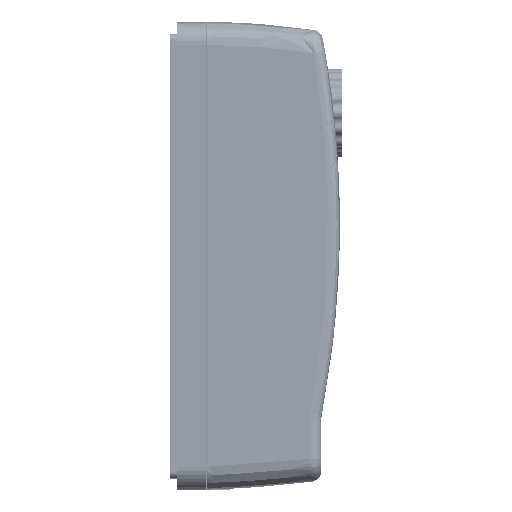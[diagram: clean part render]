
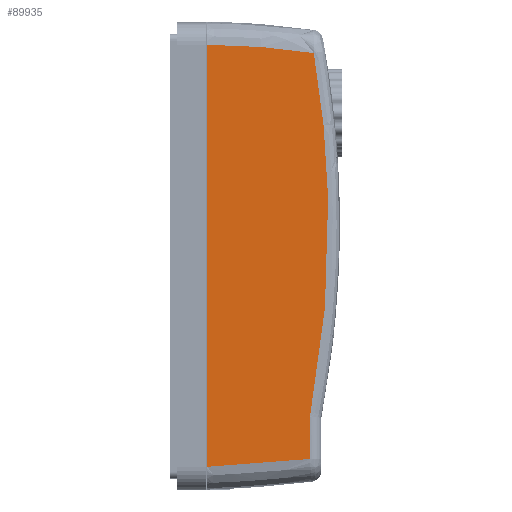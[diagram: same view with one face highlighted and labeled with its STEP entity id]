
A CAD part, front view. The second image highlights one B-rep face of the part: STEP entity #89935.
In plain terms, the highlighted planar face has unit normal (0, -1, 0) as drawn and (-1, 0, 0) by its records, which use the part's own axes.
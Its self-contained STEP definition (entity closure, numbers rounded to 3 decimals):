
#19793 = CARTESIAN_POINT ( 'NONE',  ( -120., 185., 0. ) ) ;
#24333 = CARTESIAN_POINT ( 'NONE',  ( -120., -141.058, 90. ) ) ;
#27647 = LINE ( 'NONE', #327779, #118024 ) ;
#32155 = LINE ( 'NONE', #344899, #94958 ) ;
#44687 = CARTESIAN_POINT ( 'NONE',  ( -120., -88.305, 98.618 ) ) ;
#46886 = CARTESIAN_POINT ( 'NONE',  ( -120., -129.554, 92.135 ) ) ;
#48209 = CARTESIAN_POINT ( 'NONE',  ( -120., -184.544, 15.044 ) ) ;
#52297 = ORIENTED_EDGE ( 'NONE', *, *, #222411, .T. ) ;
#53056 = CARTESIAN_POINT ( 'NONE',  ( -120., 177.795, 93.328 ) ) ;
#63633 = VERTEX_POINT ( 'NONE', #261898 ) ;
#78006 = CARTESIAN_POINT ( 'NONE',  ( -120., 4.918, 105.987 ) ) ;
#82074 = CARTESIAN_POINT ( 'NONE',  ( -120., 180.142, 77.887 ) ) ;
#85916 = CARTESIAN_POINT ( 'NONE',  ( -120., -184.991, 0. ) ) ;
#89935 = ADVANCED_FACE ( 'NONE', ( #359557 ), #286376, .F. ) ;
#91109 = EDGE_CURVE ( 'NONE', #63633, #390137, #27647, .T. ) ;
#94958 = VECTOR ( 'NONE', #113651, 1000. ) ;
#111331 = CARTESIAN_POINT ( 'NONE',  ( -120., -15.111, 105.311 ) ) ;
#113564 = CARTESIAN_POINT ( 'NONE',  ( -120., -134.486, 91.233 ) ) ;
#113651 = DIRECTION ( 'NONE',  ( 0., -1., 0. ) ) ;
#115759 = CARTESIAN_POINT ( 'NONE',  ( -120., -139.415, 90.312 ) ) ;
#117925 = CARTESIAN_POINT ( 'NONE',  ( -120., -137.773, 90.623 ) ) ;
#118024 = VECTOR ( 'NONE', #194368, 1000. ) ;
#120680 = CARTESIAN_POINT ( 'NONE',  ( -120., 177.795, 93.328 ) ) ;
#121427 = CARTESIAN_POINT ( 'NONE',  ( -120., -178.113, 90. ) ) ;
#142526 = CARTESIAN_POINT ( 'NONE',  ( -120., -55.086, 102.298 ) ) ;
#144738 = CARTESIAN_POINT ( 'NONE',  ( -120., 31.659, 106.202 ) ) ;
#149172 = CARTESIAN_POINT ( 'NONE',  ( -120., -35.105, 103.955 ) ) ;
#152658 = CARTESIAN_POINT ( 'NONE',  ( -120., -179.958, 75.063 ) ) ;
#152907 = DIRECTION ( 'NONE',  ( 1., 0., 0. ) ) ;
#160578 = AXIS2_PLACEMENT_3D ( 'NONE', #221760, #152907, #355181 ) ;
#180339 = CARTESIAN_POINT ( 'NONE',  ( -120., 177.795, 93.328 ) ) ;
#182552 = CARTESIAN_POINT ( 'NONE',  ( -120., 24.969, 106.206 ) ) ;
#188707 = CARTESIAN_POINT ( 'NONE',  ( -120., 184.945, 15.618 ) ) ;
#192531 = VERTEX_POINT ( 'NONE', #360823 ) ;
#194368 = DIRECTION ( 'NONE',  ( 0., 1., 0. ) ) ;
#213642 = CARTESIAN_POINT ( 'NONE',  ( -120., 131.52, 100.223 ) ) ;
#217175 = CARTESIAN_POINT ( 'NONE',  ( -120., -181.454, 60.085 ) ) ;
#218029 = CARTESIAN_POINT ( 'NONE',  ( -120., 65.049, 105.574 ) ) ;
#221333 = VERTEX_POINT ( 'NONE', #410959 ) ;
#221760 = CARTESIAN_POINT ( 'NONE',  ( -120., 205., 100. ) ) ;
#222411 = EDGE_CURVE ( 'NONE', #390137, #353061, #415885, .T. ) ;
#235796 = B_SPLINE_CURVE_WITH_KNOTS ( 'NONE', 3,
 ( #85916, #48209, #288329, #217175, #152658, #121427 ),
 .UNSPECIFIED., .F., .F.,
 ( 4, 2, 4 ),
 ( 0., 0.045, 0.09 ),
 .UNSPECIFIED. ) ;
#249231 = CARTESIAN_POINT ( 'NONE',  ( -120., -75.043, 100.268 ) ) ;
#251418 = CARTESIAN_POINT ( 'NONE',  ( -120., 45.022, 106.042 ) ) ;
#255441 = CARTESIAN_POINT ( 'NONE',  ( -120., 181.918, 62.365 ) ) ;
#259008 = EDGE_CURVE ( 'NONE', #192531, #63633, #235796, .T. ) ;
#261898 = CARTESIAN_POINT ( 'NONE',  ( -120., -178.113, 90. ) ) ;
#263367 = ORIENTED_EDGE ( 'NONE', *, *, #335068, .T. ) ;
#265441 = ORIENTED_EDGE ( 'NONE', *, *, #259008, .T. ) ;
#282581 = EDGE_LOOP ( 'NONE', ( #384922, #265441, #435733, #52297, #263367 ) ) ;
#284819 = CARTESIAN_POINT ( 'NONE',  ( -120., 171.206, 94.46 ) ) ;
#285309 = EDGE_CURVE ( 'NONE', #221333, #192531, #32155, .T. ) ;
#286376 = PLANE ( 'NONE',  #160578 ) ;
#288329 = CARTESIAN_POINT ( 'NONE',  ( -120., -183.747, 30.072 ) ) ;
#288826 = CARTESIAN_POINT ( 'NONE',  ( -120., 184.32, 31.223 ) ) ;
#315903 = CARTESIAN_POINT ( 'NONE',  ( -120., 98.342, 103.653 ) ) ;
#320309 = CARTESIAN_POINT ( 'NONE',  ( -120., -141.058, 90. ) ) ;
#327779 = CARTESIAN_POINT ( 'NONE',  ( -120., -142., 90. ) ) ;
#335068 = EDGE_CURVE ( 'NONE', #353061, #221333, #400855, .T. ) ;
#344899 = CARTESIAN_POINT ( 'NONE',  ( -120., 205., 0. ) ) ;
#349229 = CARTESIAN_POINT ( 'NONE',  ( -120., 164.603, 95.52 ) ) ;
#353061 = VERTEX_POINT ( 'NONE', #120680 ) ;
#355181 = DIRECTION ( 'NONE',  ( 0., 1., 0. ) ) ;
#359557 = FACE_OUTER_BOUND ( 'NONE', #282581, .T. ) ;
#360823 = CARTESIAN_POINT ( 'NONE',  ( -120., -184.991, 0. ) ) ;
#380369 = CARTESIAN_POINT ( 'NONE',  ( -120., 151.377, 97.49 ) ) ;
#384779 = CARTESIAN_POINT ( 'NONE',  ( -120., -48.428, 102.901 ) ) ;
#384922 = ORIENTED_EDGE ( 'NONE', *, *, #285309, .T. ) ;
#390137 = VERTEX_POINT ( 'NONE', #24333 ) ;
#400855 = B_SPLINE_CURVE_WITH_KNOTS ( 'NONE', 3,
 ( #53056, #82074, #255441, #288826, #188707, #19793 ),
 .UNSPECIFIED., .F., .F.,
 ( 4, 2, 4 ),
 ( 0., 0.047, 0.094 ),
 .UNSPECIFIED. ) ;
#410959 = CARTESIAN_POINT ( 'NONE',  ( -120., 185., 0. ) ) ;
#415885 = B_SPLINE_CURVE_WITH_KNOTS ( 'NONE', 3,
 ( #320309, #115759, #117925, #113564, #46886, #415927, #418162, #44687, #249231, #142526, #384779, #149172, #111331, #78006, #182552, #144738, #251418, #218029, #315903, #213642, #380369, #349229, #284819, #180339 ),
 .UNSPECIFIED., .F., .F.,
 ( 4, 2, 1, 1, 2, 2, 2, 1, 2, 2, 1, 1, 1, 2, 4 ),
 ( 0., 0.005, 0.01, 0.02, 0.04, 0.08, 0.1, 0.12, 0.16, 0.18, 0.2, 0.24, 0.281, 0.301, 0.321 ),
 .UNSPECIFIED. ) ;
#415927 = CARTESIAN_POINT ( 'NONE',  ( -120., -118.033, 94.146 ) ) ;
#418162 = CARTESIAN_POINT ( 'NONE',  ( -120., -108.134, 95.709 ) ) ;
#435733 = ORIENTED_EDGE ( 'NONE', *, *, #91109, .T. ) ;
